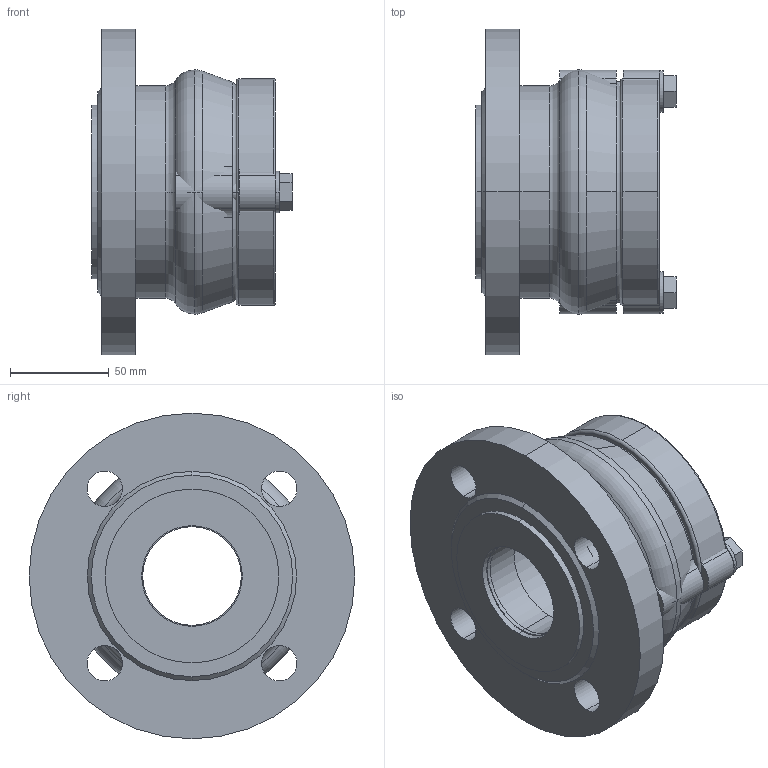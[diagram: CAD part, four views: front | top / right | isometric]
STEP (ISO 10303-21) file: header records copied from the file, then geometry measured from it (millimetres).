
FILE_DESCRIPTION(('STEP AP214'),'1');
FILE_NAME('U:/VDI-Daten/7200-(0400)/7200_PN16_DN50_63.STP','2012-06-15T08:46:38',(' '),(' '),'Spatial InterOp 3D',' ',' ');
FILE_SCHEMA(('automotive_design'));
Length unit declared in the file: millimetre
Products named in the file (16): 3D-Objekt
Bounding box: 101.4 x 165 x 165 mm (x, y, z)
Volume: 926338.6 mm3; surface area: 181728.8 mm2
Topology: 16 solids, 16 shells, 121 faces, 260 edges, 172 vertices
Faces by surface type: cylinder 56, plane 45, torus 16, cone 4
Entity records: 4744 total; most frequent: DIRECTION 698, CARTESIAN_POINT 569, ORIENTED_EDGE 520, AXIS2_PLACEMENT_3D 301, EDGE_CURVE 260, VERTEX_POINT 172, CIRCLE 164, EDGE_LOOP 142
